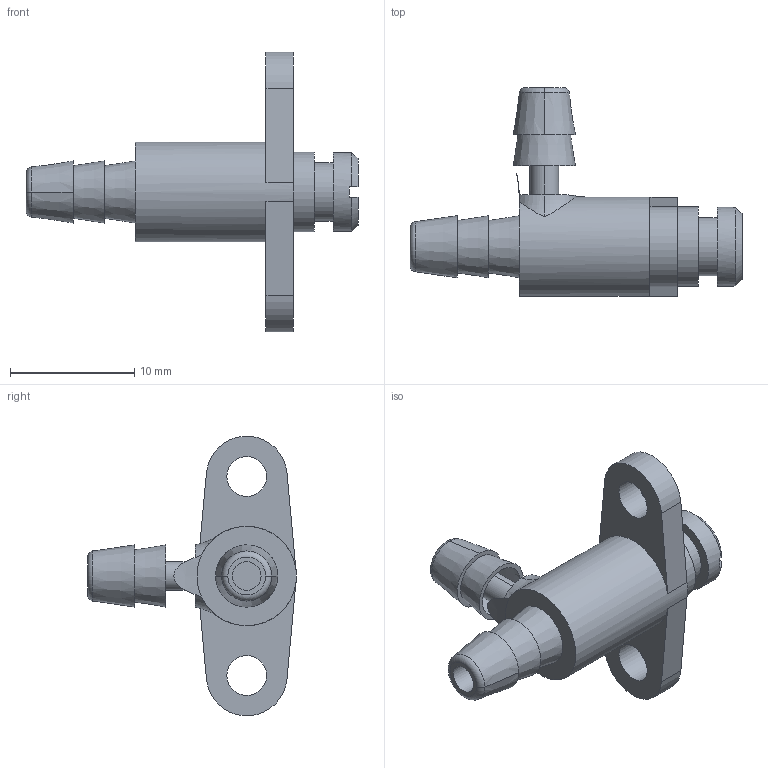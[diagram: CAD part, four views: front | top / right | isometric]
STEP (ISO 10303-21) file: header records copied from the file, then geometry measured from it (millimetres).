
FILE_DESCRIPTION(/* description */ ('SolidWorks IGES file using NURBS representation for surfaces '),/* implementation_level */ '2;1');
FILE_NAME(/* name */ 'K:\Normteile INVENTOR\Air-Logic\Needle Valves\F-2822-41-B85-SSV.IGS.ipt.stp',/* time_stamp */ '2020-05-27T10:43:38+02:00',/* author */ ('amarsh'),/* organization */ (''),/* preprocessor_version */ 'ST-DEVELOPER v18',/* originating_system */ 'Autodesk Inventor 2020',/* authorisation */ '');
FILE_SCHEMA (('AUTOMOTIVE_DESIGN { 1 0 10303 214 3 1 1 }'));
Length unit declared in the file: millimetre
Products named in the file (1): F-2822-41-B85-SSV.IGS
Bounding box: 26.7 x 16.8 x 22.48 mm (x, y, z)
Volume: 1176 mm3; surface area: 1242.2 mm2
Topology: 2 solids, 2 shells, 53 faces, 134 edges, 94 vertices
Faces by surface type: plane 23, cylinder 12, cone 10, torus 7, bspline 1
Full cylindrical faces by diameter (mm): 2.3 x1, 3.2 x2, 4.7 x1, 6.35 x1, 6.4 x1, 8 x1
Entity records: 1831 total; most frequent: CARTESIAN_POINT 409, DIRECTION 307, ORIENTED_EDGE 268, EDGE_CURVE 134, AXIS2_PLACEMENT_3D 132, VERTEX_POINT 94, CIRCLE 79, EDGE_LOOP 66
